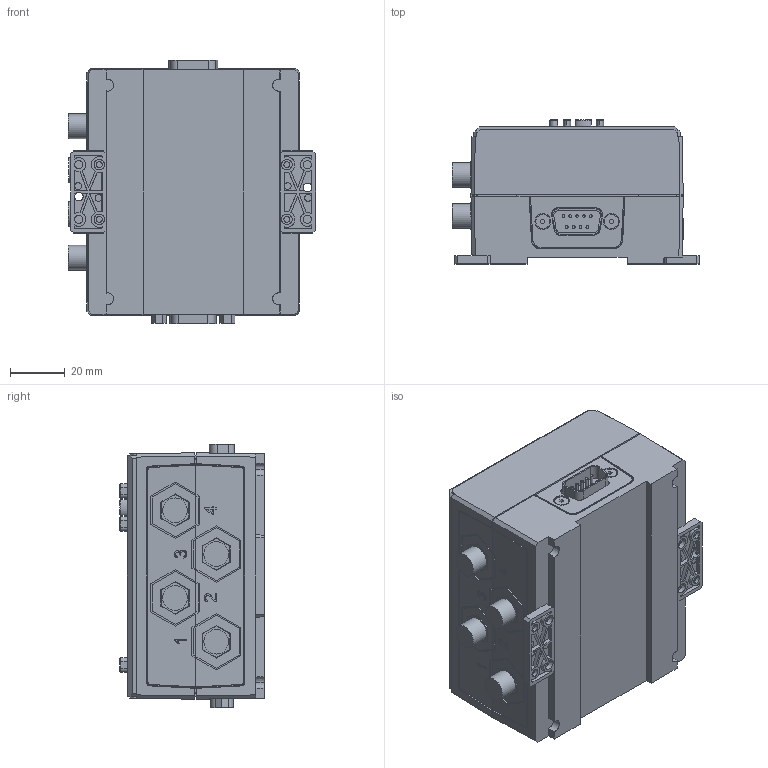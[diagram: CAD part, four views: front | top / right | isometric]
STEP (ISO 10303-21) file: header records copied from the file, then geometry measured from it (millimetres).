
FILE_DESCRIPTION(/* description */ (''),/* implementation_level */ '2;1');
FILE_NAME(/* name */ '新集线器485主盒示意图.stp',/* time_stamp */ '2024-09-02T09:53:10+08:00',/* author */ (''),/* organization */ (''),/* preprocessor_version */ 'ST-DEVELOPER v16.7',/* originating_system */ 'SIEMENS PLM Software NX 1919',/* authorisation */ '');
FILE_SCHEMA (('AUTOMOTIVE_DESIGN { 1 0 10303 214 3 1 1 1 }'));
Length unit declared in the file: millimetre
Products named in the file (1): jzCAE475F15vy3
Bounding box: 90.3 x 52.65 x 96.35 mm (x, y, z)
Volume: 333122.8 mm3; surface area: 51515.3 mm2
Topology: 1 solids, 20 shells, 1219 faces, 3134 edges, 2076 vertices
Faces by surface type: plane 906, cylinder 152, cone 104, extrusion 35, bspline 16, torus 6
Full cylindrical faces by diameter (mm): 2.5 x2, 3.2 x2, 9 x4
Entity records: 38670 total; most frequent: CARTESIAN_POINT 8884, ORIENTED_EDGE 6224, DIRECTION 5845, EDGE_CURVE 3112, VECTOR 2439, LINE 2404, VERTEX_POINT 2072, AXIS2_PLACEMENT_3D 1703
